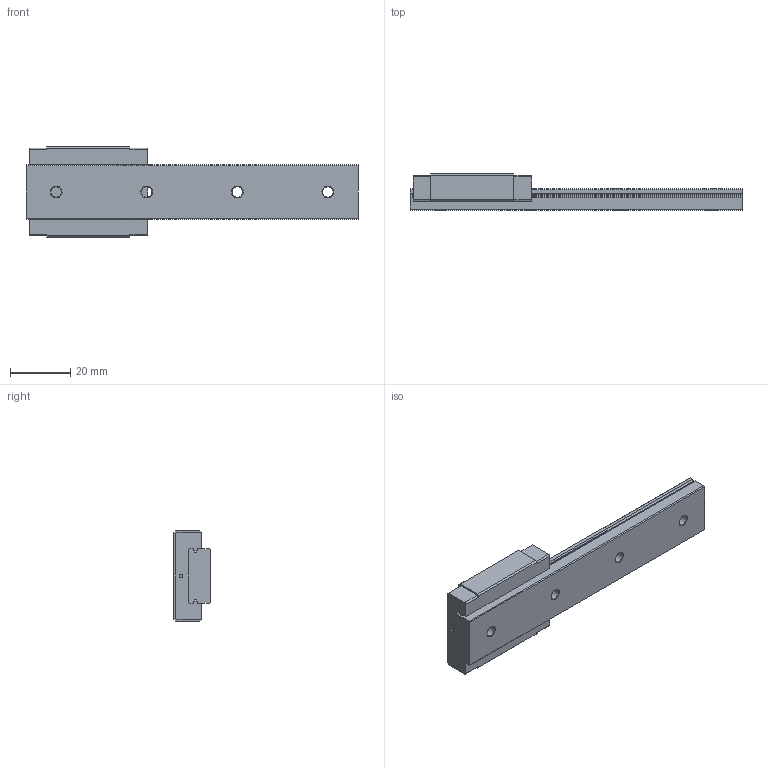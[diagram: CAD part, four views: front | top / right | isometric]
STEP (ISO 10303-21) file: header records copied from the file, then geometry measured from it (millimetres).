
FILE_DESCRIPTION( ( 'STEP AP214' ), '1' );
FILE_NAME( 'C:/Users/Futia/Documents/MLW9C.stp', '2021-11-04T07:04:52', ( 'License CC BY-ND 4.0' ), ( 'CADENAS' ), ' ', 'PARTsolutions', ' ' );
FILE_SCHEMA( ( 'AUTOMOTIVE_DESIGN { 1 0 10303 214 1 1 1 1 }' ) );
Length unit declared in the file: millimetre
Products named in the file (3): SWCC-H12-1-L110-E10; _SWCC-H12-1-L110-E10_SWCC_GUIDERAIL; _SWCC-H12-1-L110-E10_SWCC_BLOCK
Assembly tree (2 placements, depth 2):
  SWCC-H12-1-L110-E10
    _SWCC-H12-1-L110-E10_SWCC_GUIDERAIL
    _SWCC-H12-1-L110-E10_SWCC_BLOCK
Bounding box: 110 x 12 x 30 mm (x, y, z)
Volume: 20518.5 mm3; surface area: 10408.5 mm2
Topology: 2 solids, 2 shells, 110 faces, 276 edges, 180 vertices
Faces by surface type: plane 64, cylinder 34, cone 12
Full cylindrical faces by diameter (mm): 1.2 x2, 2.459 x4, 3.51 x4, 6.01 x4
Entity records: 4104 total; most frequent: DIRECTION 556, CARTESIAN_POINT 543, ORIENTED_EDGE 500, EDGE_CURVE 250, AXIS2_PLACEMENT_3D 193, VERTEX_POINT 180, LINE 170, VECTOR 170
